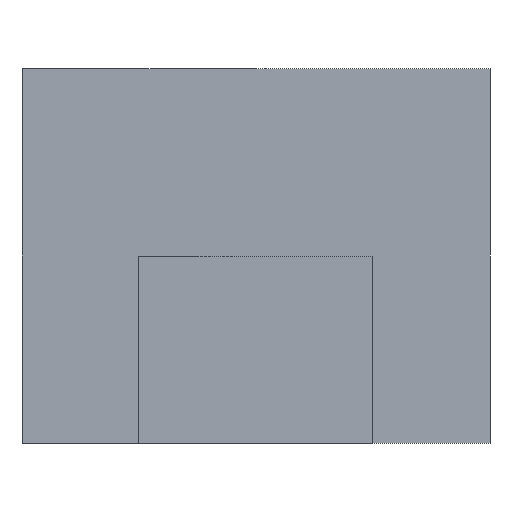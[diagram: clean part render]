
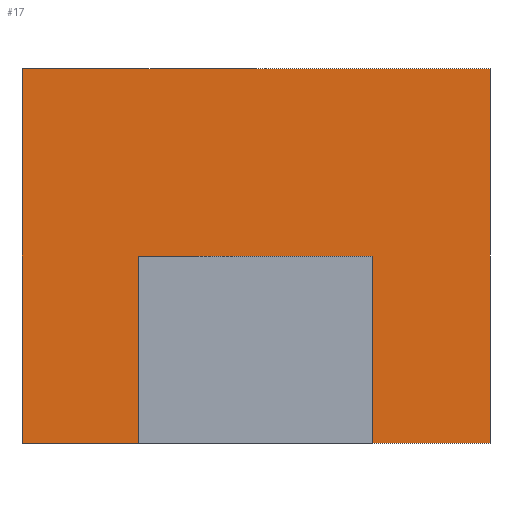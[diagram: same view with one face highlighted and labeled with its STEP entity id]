
A CAD part, left-side view. The second image highlights one B-rep face of the part: STEP entity #17.
In plain terms, the highlighted planar face has unit normal (-1, 0, 0).
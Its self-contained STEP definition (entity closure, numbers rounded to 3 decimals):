
#17 = ADVANCED_FACE('',(#18),#32,.F.);
#18 = FACE_BOUND('',#19,.F.);
#19 = EDGE_LOOP('',(#20,#55,#83,#111,#137,#163,#189,#212));
#20 = ORIENTED_EDGE('',*,*,#21,.F.);
#21 = EDGE_CURVE('',#22,#24,#26,.T.);
#22 = VERTEX_POINT('',#23);
#23 = CARTESIAN_POINT('',(-2.,-1.25,2.));
#24 = VERTEX_POINT('',#25);
#25 = CARTESIAN_POINT('',(-2.,1.25,2.));
#26 = SURFACE_CURVE('',#27,(#31,#43),.PCURVE_S1.);
#27 = LINE('',#28,#29);
#28 = CARTESIAN_POINT('',(-2.,-1.25,2.));
#29 = VECTOR('',#30,1.);
#30 = DIRECTION('',(0.,1.,0.));
#31 = PCURVE('',#32,#37);
#32 = PLANE('',#33);
#33 = AXIS2_PLACEMENT_3D('',#34,#35,#36);
#34 = CARTESIAN_POINT('',(-2.,-1.25,0.));
#35 = DIRECTION('',(1.,0.,0.));
#36 = DIRECTION('',(0.,0.,1.));
#37 = DEFINITIONAL_REPRESENTATION('',(#38),#42);
#38 = LINE('',#39,#40);
#39 = CARTESIAN_POINT('',(2.,0.));
#40 = VECTOR('',#41,1.);
#41 = DIRECTION('',(0.,-1.));
#42 = ( GEOMETRIC_REPRESENTATION_CONTEXT(2) 
PARAMETRIC_REPRESENTATION_CONTEXT() REPRESENTATION_CONTEXT('2D SPACE',''
  ) );
#43 = PCURVE('',#44,#49);
#44 = PLANE('',#45);
#45 = AXIS2_PLACEMENT_3D('',#46,#47,#48);
#46 = CARTESIAN_POINT('',(-2.,-1.25,2.));
#47 = DIRECTION('',(0.,0.,1.));
#48 = DIRECTION('',(1.,0.,0.));
#49 = DEFINITIONAL_REPRESENTATION('',(#50),#54);
#50 = LINE('',#51,#52);
#51 = CARTESIAN_POINT('',(0.,0.));
#52 = VECTOR('',#53,1.);
#53 = DIRECTION('',(0.,1.));
#54 = ( GEOMETRIC_REPRESENTATION_CONTEXT(2) 
PARAMETRIC_REPRESENTATION_CONTEXT() REPRESENTATION_CONTEXT('2D SPACE',''
  ) );
#55 = ORIENTED_EDGE('',*,*,#56,.F.);
#56 = EDGE_CURVE('',#57,#22,#59,.T.);
#57 = VERTEX_POINT('',#58);
#58 = CARTESIAN_POINT('',(-2.,-1.25,0.));
#59 = SURFACE_CURVE('',#60,(#64,#71),.PCURVE_S1.);
#60 = LINE('',#61,#62);
#61 = CARTESIAN_POINT('',(-2.,-1.25,0.));
#62 = VECTOR('',#63,1.);
#63 = DIRECTION('',(0.,0.,1.));
#64 = PCURVE('',#32,#65);
#65 = DEFINITIONAL_REPRESENTATION('',(#66),#70);
#66 = LINE('',#67,#68);
#67 = CARTESIAN_POINT('',(0.,0.));
#68 = VECTOR('',#69,1.);
#69 = DIRECTION('',(1.,0.));
#70 = ( GEOMETRIC_REPRESENTATION_CONTEXT(2) 
PARAMETRIC_REPRESENTATION_CONTEXT() REPRESENTATION_CONTEXT('2D SPACE',''
  ) );
#71 = PCURVE('',#72,#77);
#72 = PLANE('',#73);
#73 = AXIS2_PLACEMENT_3D('',#74,#75,#76);
#74 = CARTESIAN_POINT('',(-2.,-1.25,0.));
#75 = DIRECTION('',(0.,1.,0.));
#76 = DIRECTION('',(0.,0.,1.));
#77 = DEFINITIONAL_REPRESENTATION('',(#78),#82);
#78 = LINE('',#79,#80);
#79 = CARTESIAN_POINT('',(0.,0.));
#80 = VECTOR('',#81,1.);
#81 = DIRECTION('',(1.,0.));
#82 = ( GEOMETRIC_REPRESENTATION_CONTEXT(2) 
PARAMETRIC_REPRESENTATION_CONTEXT() REPRESENTATION_CONTEXT('2D SPACE',''
  ) );
#83 = ORIENTED_EDGE('',*,*,#84,.T.);
#84 = EDGE_CURVE('',#57,#85,#87,.T.);
#85 = VERTEX_POINT('',#86);
#86 = CARTESIAN_POINT('',(-2.,-0.625,0.));
#87 = SURFACE_CURVE('',#88,(#92,#99),.PCURVE_S1.);
#88 = LINE('',#89,#90);
#89 = CARTESIAN_POINT('',(-2.,-1.25,0.));
#90 = VECTOR('',#91,1.);
#91 = DIRECTION('',(0.,1.,0.));
#92 = PCURVE('',#32,#93);
#93 = DEFINITIONAL_REPRESENTATION('',(#94),#98);
#94 = LINE('',#95,#96);
#95 = CARTESIAN_POINT('',(0.,0.));
#96 = VECTOR('',#97,1.);
#97 = DIRECTION('',(0.,-1.));
#98 = ( GEOMETRIC_REPRESENTATION_CONTEXT(2) 
PARAMETRIC_REPRESENTATION_CONTEXT() REPRESENTATION_CONTEXT('2D SPACE',''
  ) );
#99 = PCURVE('',#100,#105);
#100 = PLANE('',#101);
#101 = AXIS2_PLACEMENT_3D('',#102,#103,#104);
#102 = CARTESIAN_POINT('',(-2.,-1.25,0.));
#103 = DIRECTION('',(0.,0.,1.));
#104 = DIRECTION('',(1.,0.,0.));
#105 = DEFINITIONAL_REPRESENTATION('',(#106),#110);
#106 = LINE('',#107,#108);
#107 = CARTESIAN_POINT('',(0.,0.));
#108 = VECTOR('',#109,1.);
#109 = DIRECTION('',(0.,1.));
#110 = ( GEOMETRIC_REPRESENTATION_CONTEXT(2) 
PARAMETRIC_REPRESENTATION_CONTEXT() REPRESENTATION_CONTEXT('2D SPACE',''
  ) );
#111 = ORIENTED_EDGE('',*,*,#112,.T.);
#112 = EDGE_CURVE('',#85,#113,#115,.T.);
#113 = VERTEX_POINT('',#114);
#114 = CARTESIAN_POINT('',(-2.,-0.625,1.));
#115 = SURFACE_CURVE('',#116,(#120,#126),.PCURVE_S1.);
#116 = LINE('',#117,#118);
#117 = CARTESIAN_POINT('',(-2.,-0.625,0.));
#118 = VECTOR('',#119,1.);
#119 = DIRECTION('',(0.,0.,1.));
#120 = PCURVE('',#32,#121);
#121 = DEFINITIONAL_REPRESENTATION('',(#122),#125);
#122 = B_SPLINE_CURVE_WITH_KNOTS('',1,(#123,#124),.UNSPECIFIED.,.F.,.F.,
  (2,2),(0.,1.),.PIECEWISE_BEZIER_KNOTS.);
#123 = CARTESIAN_POINT('',(0.,-0.625));
#124 = CARTESIAN_POINT('',(1.,-0.625));
#125 = ( GEOMETRIC_REPRESENTATION_CONTEXT(2) 
PARAMETRIC_REPRESENTATION_CONTEXT() REPRESENTATION_CONTEXT('2D SPACE',''
  ) );
#126 = PCURVE('',#127,#132);
#127 = PLANE('',#128);
#128 = AXIS2_PLACEMENT_3D('',#129,#130,#131);
#129 = CARTESIAN_POINT('',(-2.5,-0.625,0.));
#130 = DIRECTION('',(0.,1.,0.));
#131 = DIRECTION('',(0.,0.,1.));
#132 = DEFINITIONAL_REPRESENTATION('',(#133),#136);
#133 = B_SPLINE_CURVE_WITH_KNOTS('',1,(#134,#135),.UNSPECIFIED.,.F.,.F.,
  (2,2),(0.,1.),.PIECEWISE_BEZIER_KNOTS.);
#134 = CARTESIAN_POINT('',(0.,0.5));
#135 = CARTESIAN_POINT('',(1.,0.5));
#136 = ( GEOMETRIC_REPRESENTATION_CONTEXT(2) 
PARAMETRIC_REPRESENTATION_CONTEXT() REPRESENTATION_CONTEXT('2D SPACE',''
  ) );
#137 = ORIENTED_EDGE('',*,*,#138,.F.);
#138 = EDGE_CURVE('',#139,#113,#141,.T.);
#139 = VERTEX_POINT('',#140);
#140 = CARTESIAN_POINT('',(-2.,0.625,1.));
#141 = SURFACE_CURVE('',#142,(#146,#152),.PCURVE_S1.);
#142 = LINE('',#143,#144);
#143 = CARTESIAN_POINT('',(-2.,-0.938,1.));
#144 = VECTOR('',#145,1.);
#145 = DIRECTION('',(0.,-1.,0.));
#146 = PCURVE('',#32,#147);
#147 = DEFINITIONAL_REPRESENTATION('',(#148),#151);
#148 = B_SPLINE_CURVE_WITH_KNOTS('',1,(#149,#150),.UNSPECIFIED.,.F.,.F.,
  (2,2),(-1.563,-0.313),.PIECEWISE_BEZIER_KNOTS.);
#149 = CARTESIAN_POINT('',(1.,-1.875));
#150 = CARTESIAN_POINT('',(1.,-0.625));
#151 = ( GEOMETRIC_REPRESENTATION_CONTEXT(2) 
PARAMETRIC_REPRESENTATION_CONTEXT() REPRESENTATION_CONTEXT('2D SPACE',''
  ) );
#152 = PCURVE('',#153,#158);
#153 = PLANE('',#154);
#154 = AXIS2_PLACEMENT_3D('',#155,#156,#157);
#155 = CARTESIAN_POINT('',(-2.5,-0.625,1.));
#156 = DIRECTION('',(0.,0.,1.));
#157 = DIRECTION('',(1.,0.,0.));
#158 = DEFINITIONAL_REPRESENTATION('',(#159),#162);
#159 = B_SPLINE_CURVE_WITH_KNOTS('',1,(#160,#161),.UNSPECIFIED.,.F.,.F.,
  (2,2),(-1.563,-0.313),.PIECEWISE_BEZIER_KNOTS.);
#160 = CARTESIAN_POINT('',(0.5,1.25));
#161 = CARTESIAN_POINT('',(0.5,0.));
#162 = ( GEOMETRIC_REPRESENTATION_CONTEXT(2) 
PARAMETRIC_REPRESENTATION_CONTEXT() REPRESENTATION_CONTEXT('2D SPACE',''
  ) );
#163 = ORIENTED_EDGE('',*,*,#164,.F.);
#164 = EDGE_CURVE('',#165,#139,#167,.T.);
#165 = VERTEX_POINT('',#166);
#166 = CARTESIAN_POINT('',(-2.,0.625,0.));
#167 = SURFACE_CURVE('',#168,(#172,#178),.PCURVE_S1.);
#168 = LINE('',#169,#170);
#169 = CARTESIAN_POINT('',(-2.,0.625,0.));
#170 = VECTOR('',#171,1.);
#171 = DIRECTION('',(0.,0.,1.));
#172 = PCURVE('',#32,#173);
#173 = DEFINITIONAL_REPRESENTATION('',(#174),#177);
#174 = B_SPLINE_CURVE_WITH_KNOTS('',1,(#175,#176),.UNSPECIFIED.,.F.,.F.,
  (2,2),(0.,1.),.PIECEWISE_BEZIER_KNOTS.);
#175 = CARTESIAN_POINT('',(0.,-1.875));
#176 = CARTESIAN_POINT('',(1.,-1.875));
#177 = ( GEOMETRIC_REPRESENTATION_CONTEXT(2) 
PARAMETRIC_REPRESENTATION_CONTEXT() REPRESENTATION_CONTEXT('2D SPACE',''
  ) );
#178 = PCURVE('',#179,#184);
#179 = PLANE('',#180);
#180 = AXIS2_PLACEMENT_3D('',#181,#182,#183);
#181 = CARTESIAN_POINT('',(-2.5,0.625,0.));
#182 = DIRECTION('',(0.,1.,0.));
#183 = DIRECTION('',(0.,0.,1.));
#184 = DEFINITIONAL_REPRESENTATION('',(#185),#188);
#185 = B_SPLINE_CURVE_WITH_KNOTS('',1,(#186,#187),.UNSPECIFIED.,.F.,.F.,
  (2,2),(0.,1.),.PIECEWISE_BEZIER_KNOTS.);
#186 = CARTESIAN_POINT('',(0.,0.5));
#187 = CARTESIAN_POINT('',(1.,0.5));
#188 = ( GEOMETRIC_REPRESENTATION_CONTEXT(2) 
PARAMETRIC_REPRESENTATION_CONTEXT() REPRESENTATION_CONTEXT('2D SPACE',''
  ) );
#189 = ORIENTED_EDGE('',*,*,#190,.T.);
#190 = EDGE_CURVE('',#165,#191,#193,.T.);
#191 = VERTEX_POINT('',#192);
#192 = CARTESIAN_POINT('',(-2.,1.25,0.));
#193 = SURFACE_CURVE('',#194,(#198,#205),.PCURVE_S1.);
#194 = LINE('',#195,#196);
#195 = CARTESIAN_POINT('',(-2.,-1.25,0.));
#196 = VECTOR('',#197,1.);
#197 = DIRECTION('',(0.,1.,0.));
#198 = PCURVE('',#32,#199);
#199 = DEFINITIONAL_REPRESENTATION('',(#200),#204);
#200 = LINE('',#201,#202);
#201 = CARTESIAN_POINT('',(0.,0.));
#202 = VECTOR('',#203,1.);
#203 = DIRECTION('',(0.,-1.));
#204 = ( GEOMETRIC_REPRESENTATION_CONTEXT(2) 
PARAMETRIC_REPRESENTATION_CONTEXT() REPRESENTATION_CONTEXT('2D SPACE',''
  ) );
#205 = PCURVE('',#100,#206);
#206 = DEFINITIONAL_REPRESENTATION('',(#207),#211);
#207 = LINE('',#208,#209);
#208 = CARTESIAN_POINT('',(0.,0.));
#209 = VECTOR('',#210,1.);
#210 = DIRECTION('',(0.,1.));
#211 = ( GEOMETRIC_REPRESENTATION_CONTEXT(2) 
PARAMETRIC_REPRESENTATION_CONTEXT() REPRESENTATION_CONTEXT('2D SPACE',''
  ) );
#212 = ORIENTED_EDGE('',*,*,#213,.T.);
#213 = EDGE_CURVE('',#191,#24,#214,.T.);
#214 = SURFACE_CURVE('',#215,(#219,#226),.PCURVE_S1.);
#215 = LINE('',#216,#217);
#216 = CARTESIAN_POINT('',(-2.,1.25,0.));
#217 = VECTOR('',#218,1.);
#218 = DIRECTION('',(0.,0.,1.));
#219 = PCURVE('',#32,#220);
#220 = DEFINITIONAL_REPRESENTATION('',(#221),#225);
#221 = LINE('',#222,#223);
#222 = CARTESIAN_POINT('',(0.,-2.5));
#223 = VECTOR('',#224,1.);
#224 = DIRECTION('',(1.,0.));
#225 = ( GEOMETRIC_REPRESENTATION_CONTEXT(2) 
PARAMETRIC_REPRESENTATION_CONTEXT() REPRESENTATION_CONTEXT('2D SPACE',''
  ) );
#226 = PCURVE('',#227,#232);
#227 = PLANE('',#228);
#228 = AXIS2_PLACEMENT_3D('',#229,#230,#231);
#229 = CARTESIAN_POINT('',(-2.,1.25,0.));
#230 = DIRECTION('',(0.,1.,0.));
#231 = DIRECTION('',(0.,0.,1.));
#232 = DEFINITIONAL_REPRESENTATION('',(#233),#237);
#233 = LINE('',#234,#235);
#234 = CARTESIAN_POINT('',(0.,0.));
#235 = VECTOR('',#236,1.);
#236 = DIRECTION('',(1.,0.));
#237 = ( GEOMETRIC_REPRESENTATION_CONTEXT(2) 
PARAMETRIC_REPRESENTATION_CONTEXT() REPRESENTATION_CONTEXT('2D SPACE',''
  ) );
